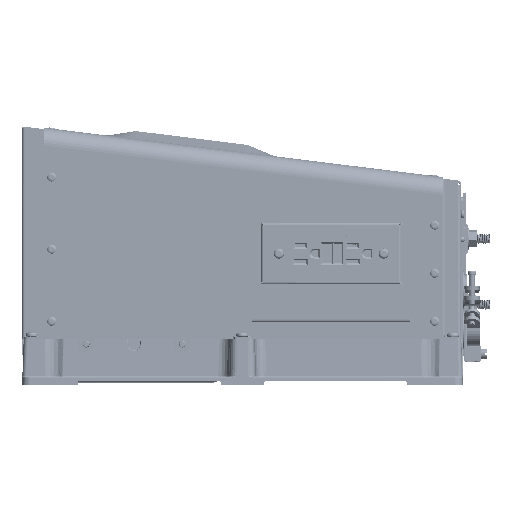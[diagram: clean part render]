
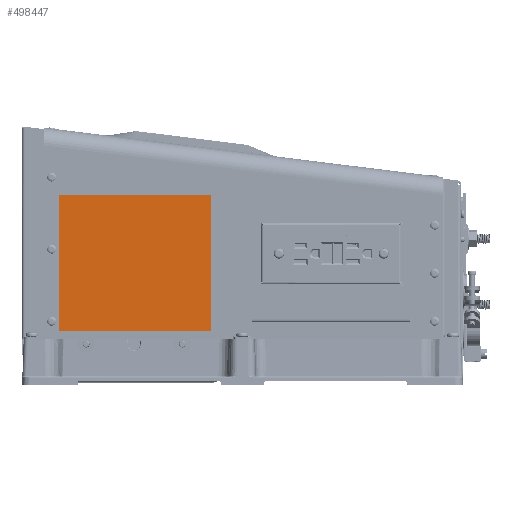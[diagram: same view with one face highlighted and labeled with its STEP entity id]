
A CAD part, top view. The second image highlights one B-rep face of the part: STEP entity #498447.
In plain terms, the highlighted planar face has unit normal (0, 0, 1).
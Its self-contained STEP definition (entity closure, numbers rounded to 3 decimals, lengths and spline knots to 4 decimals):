
#9610 = VECTOR ( 'NONE', #230166, 39.3701 ) ;
#21615 = CARTESIAN_POINT ( 'NONE',  ( -7.858, 5.9253, 5.61 ) ) ;
#29831 = LINE ( 'NONE', #144350, #441121 ) ;
#31528 = VERTEX_POINT ( 'NONE', #120917 ) ;
#31566 = CARTESIAN_POINT ( 'NONE',  ( -12.608, 5.9253, 5.61 ) ) ;
#71608 = DIRECTION ( 'NONE',  ( 0., -1., 0. ) ) ;
#84627 = CARTESIAN_POINT ( 'NONE',  ( -12.608, 5.9253, 5.61 ) ) ;
#93942 = EDGE_CURVE ( 'NONE', #162784, #249023, #29831, .T. ) ;
#104204 = DIRECTION ( 'NONE',  ( -1., 0., 0. ) ) ;
#112391 = VECTOR ( 'NONE', #157881, 39.3701 ) ;
#120917 = CARTESIAN_POINT ( 'NONE',  ( -7.858, 1.6753, 5.61 ) ) ;
#140745 = ORIENTED_EDGE ( 'NONE', *, *, #334310, .T. ) ;
#144350 = CARTESIAN_POINT ( 'NONE',  ( -12.608, 5.9253, 5.61 ) ) ;
#157881 = DIRECTION ( 'NONE',  ( 1., 0., 0. ) ) ;
#162784 = VERTEX_POINT ( 'NONE', #21615 ) ;
#193381 = DIRECTION ( 'NONE',  ( 0., 0., 1. ) ) ;
#208917 = LINE ( 'NONE', #508770, #9610 ) ;
#214879 = ORIENTED_EDGE ( 'NONE', *, *, #392397, .T. ) ;
#228023 = VERTEX_POINT ( 'NONE', #324503 ) ;
#230166 = DIRECTION ( 'NONE',  ( 0., 1., 0. ) ) ;
#240886 = EDGE_LOOP ( 'NONE', ( #214879, #282193, #140745, #290425 ) ) ;
#249023 = VERTEX_POINT ( 'NONE', #84627 ) ;
#257079 = AXIS2_PLACEMENT_3D ( 'NONE', #386898, #193381, #472079 ) ;
#282193 = ORIENTED_EDGE ( 'NONE', *, *, #367954, .T. ) ;
#290425 = ORIENTED_EDGE ( 'NONE', *, *, #93942, .T. ) ;
#313348 = LINE ( 'NONE', #31566, #500345 ) ;
#317958 = CARTESIAN_POINT ( 'NONE',  ( -12.608, 1.6753, 5.61 ) ) ;
#324503 = CARTESIAN_POINT ( 'NONE',  ( -12.608, 1.6753, 5.61 ) ) ;
#334310 = EDGE_CURVE ( 'NONE', #31528, #162784, #208917, .T. ) ;
#367954 = EDGE_CURVE ( 'NONE', #228023, #31528, #511184, .T. ) ;
#386898 = CARTESIAN_POINT ( 'NONE',  ( -7.858, 1.6753, 5.61 ) ) ;
#392099 = PLANE ( 'NONE',  #257079 ) ;
#392397 = EDGE_CURVE ( 'NONE', #249023, #228023, #313348, .T. ) ;
#393522 = FACE_OUTER_BOUND ( 'NONE', #240886, .T. ) ;
#441121 = VECTOR ( 'NONE', #104204, 39.3701 ) ;
#472079 = DIRECTION ( 'NONE',  ( 1., 0., 0. ) ) ;
#498447 = ADVANCED_FACE ( 'NONE', ( #393522 ), #392099, .T. ) ;
#500345 = VECTOR ( 'NONE', #71608, 39.3701 ) ;
#508770 = CARTESIAN_POINT ( 'NONE',  ( -7.858, 5.9253, 5.61 ) ) ;
#511184 = LINE ( 'NONE', #317958, #112391 ) ;
